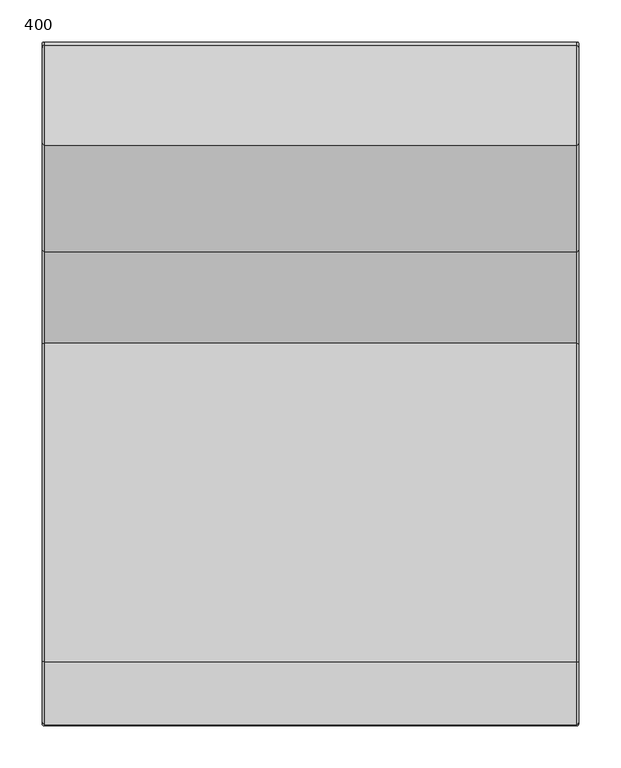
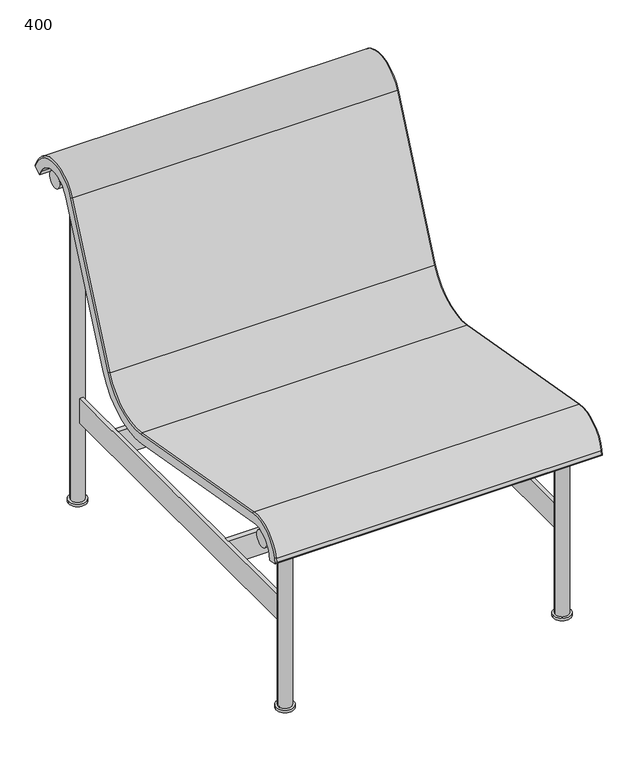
"""IFC4 building model written with IfcOpenShell, lengths in millimetres: furniture geometry, Vestre - Munch - 5166 : 400."""

from ifc_helpers import new_model, si_unit, point, frame, frame_2d, origin, origin_with_axes, place, context, project, spatial, polyline, circle_curve, ellipse_curve, trimmed, segment, composite_curve, outline, extrude, source, transform, mapped, element, save
from ifc_brep_helpers import plane_surface, cylinder_surface, revolved_surface, advanced_brep


def furniture_400_4419f9aa(model_context):
    return source(origin(), model_context, "Body", "SolidModel", [
        advanced_brep(
        [(319.0000801, -388.7630396, 344.2221828), (319.0000801, -386.6445717, 354.1887908), (319.0000801, -334.8137617, 389.1491136), (319.0000801, 43.3199172, 322.4739437), (319.0000801, 173.7831535, 391.8424769), (319.0000801, 300.0909448, 675.5344209), (319.0000801, 382.8976748, 677.7027915), (319.0000801, 387.7145515, 668.2491387), (319.0000801, 402.8355839, 675.9536895), (319.0000801, 398.0187072, 685.4073423), (319.0000801, 284.5874101, 682.4370393), (319.0000801, 158.2796189, 398.7450952), (319.0000801, 46.2668538, 339.1868516), (319.0000801, -331.8668251, 405.8620215), (319.0000801, -403.2444519, 357.7172042), (319.0000801, -405.3629199, 347.7505963), (-318.9999199, 387.7145515, 668.2491387), (-318.9999199, 382.8976748, 677.7027915), (-318.9999199, 300.0909448, 675.5344209), (-318.9999199, 173.7831535, 391.8424769), (-318.9999199, 43.3199172, 322.4739437), (-318.9999199, -334.8137617, 389.1491136), (-318.9999199, -386.6445717, 354.1887908), (-318.9999199, -388.7630396, 344.2221828), (-318.9999199, -405.3629199, 347.7505963), (-318.9999199, -403.2444519, 357.7172042), (-318.9999199, -331.8668251, 405.8620215), (-318.9999199, 46.2668538, 339.1868516), (-318.9999199, 158.2796189, 398.7450952), (-318.9999199, 284.5874101, 682.4370393), (-318.9999199, 398.0187072, 685.4073423), (-318.9999199, 402.8355839, 675.9536895), (315.9708116, 46.7928808, 342.1700987), (-315.9706527, 46.7928808, 342.1700987), (-315.9706513, -331.3407981, 408.8452686), (315.9708116, -331.3407981, 408.8452686), (-315.9706513, -406.2075237, 358.3470246), (315.9708116, -406.2075237, 358.3470246), (-315.9706513, -407.6961713, 351.3434884), (315.9708116, -407.6961713, 351.3434884), (-315.9706531, 400.7178052, 686.7826014), (315.9708116, 400.7178052, 686.7826014), (315.9708116, 404.1594228, 680.0280467), (-315.9706513, 404.1594228, 680.0280467), (-315.9706513, 281.8200356, 683.6691538), (315.9708116, 281.8200356, 683.6691538), (-315.9706513, 155.5122443, 399.9772097), (315.9708116, 155.5122443, 399.9772097)],
        [
            (0, 1),
            (1, 2, circle_curve(frame((319.0000801, -342.6279297, 344.8327647), z_axis=(-1.0, 0.0, 0.0), x_axis=(0.0, -1.0, 0.0)), 45.0)),
            (2, 3),
            (3, 4, circle_curve(frame((319.0000801, 64.1576986, 440.650874), z_axis=(1.0, 0.0, 0.0), x_axis=(0.0, -1.0, 0.0)), 120.0)),
            (4, 5),
            (5, 6, circle_curve(frame((319.0000801, 342.0114396, 656.8702141), z_axis=(-1.0, 0.0, 0.0), x_axis=(0.0, -1.0, 0.0)), 45.8876945)),
            (6, 7),
            (7, 8),
            (8, 9),
            (9, 10, circle_curve(frame((319.0000801, 342.0114396, 656.8702141), z_axis=(1.0, 0.0, 0.0), x_axis=(0.0, 0.8910065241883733, 0.453990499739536)), 62.8584259)),
            (10, 11),
            (11, 12, circle_curve(frame((319.0000801, 64.1576986, 440.650874), z_axis=(-1.0, 0.0, 0.0), x_axis=(0.0, 0.9135454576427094, -0.4067366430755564)), 103.0292686)),
            (12, 13),
            (13, 14, circle_curve(frame((319.0000801, -342.6279297, 344.8327647), z_axis=(1.0, 0.0, 0.0), x_axis=(0.0, 0.17364817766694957, 0.9848077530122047)), 61.9707314)),
            (14, 15),
            (15, 0),
            (16, 17),
            (17, 18, circle_curve(frame((-318.9999199, 342.0114396, 656.8702141), z_axis=(1.0, 0.0, 0.0), x_axis=(0.0, -1.0, 0.0)), 45.8876945)),
            (18, 19),
            (19, 20, circle_curve(frame((-318.9999199, 64.1576986, 440.650874), z_axis=(-1.0, 0.0, 0.0), x_axis=(0.0, -1.0, 0.0)), 120.0)),
            (20, 21),
            (21, 22, circle_curve(frame((-318.9999199, -342.6279297, 344.8327647), z_axis=(1.0, 0.0, 0.0), x_axis=(0.0, -1.0, 0.0)), 45.0)),
            (22, 23),
            (23, 24),
            (24, 25),
            (25, 26, circle_curve(frame((-318.9999199, -342.6279297, 344.8327647), z_axis=(-1.0, 0.0, 0.0), x_axis=(0.0, -0.9781476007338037, 0.2079116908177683)), 61.9707314)),
            (26, 27),
            (27, 28, circle_curve(frame((-318.9999199, 64.1576986, 440.650874), z_axis=(1.0, 0.0, 0.0), x_axis=(0.0, -0.17364817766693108, -0.9848077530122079)), 103.0292686)),
            (28, 29),
            (29, 30, circle_curve(frame((-318.9999199, 342.0114396, 656.8702141), z_axis=(-1.0, 0.0, 0.0), x_axis=(0.0, -0.9135454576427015, 0.40673664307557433)), 62.8584259)),
            (30, 31),
            (31, 16),
            (32, 33),
            (33, 34),
            (34, 35),
            (35, 32),
            (34, 36, circle_curve(frame((-315.9706513, -342.6279297, 344.8327647), z_axis=(1.0, 0.0, 0.0), x_axis=(0.0, -1.0, 0.0)), 65.0)),
            (36, 37),
            (37, 35, circle_curve(frame((315.9708116, -342.6279297, 344.8327647), z_axis=(-1.0, 0.0, 0.0), x_axis=(0.0, -1.0, 0.0)), 65.0)),
            (36, 38),
            (38, 39),
            (39, 37),
            (23, 0),
            (15, 24),
            (22, 1),
            (21, 2),
            (20, 3),
            (19, 4),
            (18, 5),
            (17, 6),
            (16, 7),
            (31, 8),
            (40, 41),
            (41, 42),
            (42, 43),
            (43, 40),
            (40, 44, circle_curve(frame((-315.9706513, 342.0114396, 656.8702141), z_axis=(1.0, 0.0, 0.0), x_axis=(0.0, -1.0, 0.0)), 65.8876945)),
            (44, 45),
            (45, 41, circle_curve(frame((315.9708116, 342.0114396, 656.8702141), z_axis=(-1.0, 0.0, 0.0), x_axis=(0.0, -1.0, 0.0)), 65.8876945)),
            (44, 46),
            (46, 47),
            (47, 45),
            (32, 47, circle_curve(frame((315.9708116, 64.1576986, 440.650874), z_axis=(1.0, 0.0, 0.0), x_axis=(0.0, -1.0, 0.0)), 100.0)),
            (46, 33, circle_curve(frame((-315.9706513, 64.1576986, 440.650874), z_axis=(-1.0, 0.0, 0.0), x_axis=(0.0, -1.0, 0.0)), 100.0)),
            (46, 28, circle_curve(frame((-315.9706513, 158.2796189, 398.7450952), z_axis=(0.0, -0.4067366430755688, -0.9135454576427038), x_axis=(1.0, 0.0, 0.0)), 3.0292686)),
            (27, 33, circle_curve(frame((-315.9706513, 46.2668538, 339.1868516), z_axis=(0.0, 0.9848077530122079, -0.17364817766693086), x_axis=(1.0, 0.0, 0.0)), 3.0292686)),
            (44, 29, circle_curve(frame((-315.9706513, 284.5874101, 682.4370393), z_axis=(0.0, -0.40673664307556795, -0.9135454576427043), x_axis=(1.0, 0.0, 0.0)), 3.0292686)),
            (40, 30, circle_curve(frame((-315.9706513, 398.0187072, 685.4073423), z_axis=(0.0, -0.4539904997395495, 0.8910065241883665), x_axis=(1.0, 0.0, 0.0)), 3.0292686)),
            (43, 31, ellipse_curve(frame((-315.9706513, 401.4603247, 678.6527875), z_axis=(-0.7071067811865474, -0.3210197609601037, 0.6300367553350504), x_axis=(-0.7071067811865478, 0.32101976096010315, -0.6300367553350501)), 4.2840327, 3.0292686)),
            (42, 8, ellipse_curve(frame((315.9708116, 401.4603247, 678.6527875), z_axis=(-0.7071067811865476, 0.32101976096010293, -0.6300367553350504), x_axis=(0.7071067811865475, 0.32101976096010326, -0.6300367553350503)), 4.2840327, 3.0292686)),
            (41, 9, circle_curve(frame((315.9708116, 398.0187072, 685.4073423), z_axis=(0.0, 0.4539904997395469, -0.8910065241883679), x_axis=(-1.0, 0.0, 0.0)), 3.0292686)),
            (45, 10, circle_curve(frame((315.9708116, 284.5874101, 682.4370393), z_axis=(0.0, 0.40673664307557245, 0.9135454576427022), x_axis=(-1.0, 0.0, 0.0)), 3.0292686)),
            (47, 11, circle_curve(frame((315.9708116, 158.2796189, 398.7450952), z_axis=(0.0, 0.4067366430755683, 0.9135454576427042), x_axis=(-1.0, 0.0, 0.0)), 3.0292686)),
            (32, 12, circle_curve(frame((315.9708116, 46.2668538, 339.1868516), z_axis=(0.0, 0.9848077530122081, -0.17364817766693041), x_axis=(-1.0, 0.0, 0.0)), 3.0292686)),
            (35, 13, circle_curve(frame((315.9708116, -331.8668251, 405.8620215), z_axis=(0.0, 0.9848077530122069, -0.17364817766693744), x_axis=(-1.0, 0.0, 0.0)), 3.0292686)),
            (37, 14, circle_curve(frame((315.9708116, -403.2444519, 357.7172042), z_axis=(0.0, 0.2079116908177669, 0.9781476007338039), x_axis=(-1.0, 0.0, 0.0)), 3.0292686)),
            (39, 15, ellipse_curve(frame((315.9708116, -404.7330995, 350.713668), z_axis=(0.7071067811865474, 0.14701576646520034, 0.6916548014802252), x_axis=(0.7071067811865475, -0.14701576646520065, -0.6916548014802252)), 4.2840327, 3.0292686)),
            (38, 24, ellipse_curve(frame((-315.9706513, -404.7330995, 350.713668), z_axis=(0.7071067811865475, -0.14701576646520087, -0.691654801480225), x_axis=(-0.7071067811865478, -0.14701576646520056, -0.691654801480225)), 4.2840327, 3.0292686)),
            (36, 25, circle_curve(frame((-315.9706513, -403.2444519, 357.7172042), z_axis=(0.0, -0.20791169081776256, -0.978147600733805), x_axis=(1.0, 0.0, 0.0)), 3.0292686)),
            (34, 26, circle_curve(frame((-315.9706513, -331.8668251, 405.8620215), z_axis=(0.0, -0.9848077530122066, 0.1736481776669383), x_axis=(1.0, 0.0, 0.0)), 3.0292686)),
        ],
        [
            plane_surface(frame((319.0000801, -330.1637759, 408.6377279), z_axis=(1.0, 0.0, 0.0), x_axis=(0.0, -0.9848077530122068, 0.17364817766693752))),
            plane_surface(frame((-318.9999199, -330.1637759, 408.6377279), z_axis=(-1.0, 0.0, 0.0), x_axis=(0.0, 0.9848077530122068, -0.17364817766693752))),
            plane_surface(frame((319.0000801, 46.7928808, 342.1700987), z_axis=(0.0, 0.17364817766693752, 0.9848077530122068), x_axis=(-1.0, 0.0, 0.0))),
            cylinder_surface(frame((-318.9999199, -342.6279297, 344.8327647), z_axis=(1.0, 0.0, 0.0), x_axis=(0.0, -1.0, 0.0)), 65.0),
            plane_surface(frame((319.0000801, -406.2075237, 358.3470246), z_axis=(0.0, -0.978147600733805, 0.20791169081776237), x_axis=(-1.0, 0.0, 0.0))),
            plane_surface(frame((319.0000801, -408.3259916, 348.3804166), z_axis=(0.0, -0.20791169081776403, -0.9781476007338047), x_axis=(-1.0, 0.0, 0.0))),
            plane_surface(frame((319.0000801, -388.7630396, 344.2221828), z_axis=(0.0, 0.9781476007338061, -0.20791169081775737), x_axis=(-1.0, 0.0, 0.0))),
            revolved_surface(polyline([(-318.9999199, -387.6279297, 344.8327647), (319.0000801, -387.6279297, 344.8327647)]), (-318.9999199, -342.6279297, 344.8327647), (-1.0, 0.0, 0.0)),
            plane_surface(frame((319.0000801, -334.8137617, 389.1491136), z_axis=(0.0, -0.17364817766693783, -0.9848077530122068), x_axis=(-1.0, 0.0, 0.0))),
            cylinder_surface(frame((-318.9999199, 64.1576986, 440.650874), z_axis=(1.0, 0.0, 0.0), x_axis=(0.0, -1.0, 0.0)), 120.0),
            plane_surface(frame((319.0000801, 173.7831535, 391.8424769), z_axis=(0.0, 0.9135454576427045, -0.40673664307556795), x_axis=(-1.0, 0.0, 0.0))),
            revolved_surface(polyline([(-318.9999199, 296.1237451, 656.8702141), (319.0000801, 296.1237451, 656.8702141)]), (-318.9999199, 342.0114396, 656.8702141), (-1.0, 0.0, 0.0)),
            plane_surface(frame((319.0000801, 382.8976748, 677.7027915), z_axis=(0.0, -0.8910065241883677, -0.45399049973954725), x_axis=(-1.0, 0.0, 0.0))),
            plane_surface(frame((319.0000801, 387.7145515, 668.2491387), z_axis=(0.0, 0.45399049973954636, -0.8910065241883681), x_axis=(-1.0, 0.0, 0.0))),
            plane_surface(frame((319.0000801, 405.5346819, 677.3289486), z_axis=(0.0, 0.8910065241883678, 0.4539904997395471), x_axis=(-1.0, 0.0, 0.0))),
            cylinder_surface(frame((-318.9999199, 342.0114396, 656.8702141), z_axis=(1.0, 0.0, 0.0), x_axis=(0.0, -1.0, 0.0)), 65.8876945),
            plane_surface(frame((319.0000801, 281.8200356, 683.6691538), z_axis=(0.0, -0.9135454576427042, 0.4067366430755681), x_axis=(-1.0, 0.0, 0.0))),
            revolved_surface(polyline([(-315.9706527, -35.8423014, 440.650874), (315.97081160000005, -35.8423014, 440.650874)]), (-318.9999199, 64.1576986, 440.650874), (-1.0, 0.0, 0.0)),
            revolved_surface(trimmed(ellipse_curve(frame((-315.9706513, 46.2668538, 339.1868516), z_axis=(0.0, -0.9848077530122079, 0.17364817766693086), x_axis=(1.0, 0.0, 0.0)), 3.0292686, 3.0292686), [point((-315.9706513, 46.7928808, 342.1700987))], [point((-318.9999199, 46.2668538, 339.1868516))], True, "CARTESIAN"), (-318.9999199, 64.1576986, 440.650874), (1.0, 0.0, 0.0)),
            cylinder_surface(frame((-315.9706513, 158.2796189, 398.7450952), z_axis=(0.0, 0.40673664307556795, 0.9135454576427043), x_axis=(1.0, 0.0, 0.0)), 3.0292686),
            revolved_surface(trimmed(ellipse_curve(frame((-315.9706513, 284.5874101, 682.4370393), z_axis=(0.0, -0.40673664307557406, -0.9135454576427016), x_axis=(1.0, 0.0, 0.0)), 3.0292686, 3.0292686), [point((-315.9706513, 281.8200356, 683.6691538))], [point((-318.9999199, 284.5874101, 682.4370393))], True, "CARTESIAN"), (-318.9999199, 342.0114396, 656.8702141), (-1.0, 0.0, 0.0)),
            cylinder_surface(frame((-315.9706513, 398.0187072, 685.4073423), z_axis=(0.0, 0.45399049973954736, -0.8910065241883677), x_axis=(1.0, 0.0, 0.0)), 3.0292686),
            cylinder_surface(frame((-318.9999199, 401.4603247, 678.6527875), z_axis=(1.0, 0.0, 0.0), x_axis=(0.0, -0.4539904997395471, 0.8910065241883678)), 3.0292686),
            cylinder_surface(frame((315.9708116, 402.8355839, 675.9536895), z_axis=(0.0, -0.4539904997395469, 0.8910065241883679), x_axis=(-1.0, 0.0, 0.0)), 3.0292686),
            revolved_surface(trimmed(ellipse_curve(frame((315.9708116, 398.0187072, 685.4073423), z_axis=(0.0, 0.45399049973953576, -0.8910065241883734), x_axis=(-1.0, 0.0, 0.0)), 3.0292686, 3.0292686), [point((315.9708116, 400.7178052, 686.7826014))], [point((319.0000801, 398.0187072, 685.4073423))], True, "CARTESIAN"), (319.0000801, 342.0114396, 656.8702141), (1.0, 0.0, 0.0)),
            cylinder_surface(frame((315.9708116, 284.5874101, 682.4370393), z_axis=(0.0, -0.4067366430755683, -0.9135454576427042), x_axis=(-1.0, 0.0, 0.0)), 3.0292686),
            revolved_surface(trimmed(ellipse_curve(frame((315.9708116, 158.2796189, 398.7450952), z_axis=(0.0, 0.4067366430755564, 0.9135454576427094), x_axis=(-1.0, 0.0, 0.0)), 3.0292686, 3.0292686), [point((315.9708116, 155.5122443, 399.9772097))], [point((319.0000801, 158.2796189, 398.7450952))], True, "CARTESIAN"), (319.0000801, 64.1576986, 440.650874), (-1.0, 0.0, 0.0)),
            cylinder_surface(frame((315.9708116, 46.2668538, 339.1868516), z_axis=(0.0, -0.9848077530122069, 0.17364817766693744), x_axis=(-1.0, 0.0, 0.0)), 3.0292686),
            revolved_surface(trimmed(ellipse_curve(frame((315.9708116, -331.8668251, 405.8620215), z_axis=(0.0, 0.9848077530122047, -0.17364817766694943), x_axis=(-1.0, 0.0, 0.0)), 3.0292686, 3.0292686), [point((315.9708116, -331.3407981, 408.8452686))], [point((319.0000801, -331.8668251, 405.8620215))], True, "CARTESIAN"), (319.0000801, -342.6279297, 344.8327647), (1.0, 0.0, 0.0)),
            cylinder_surface(frame((315.9708116, -403.2444519, 357.7172042), z_axis=(0.0, -0.20791169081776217, -0.978147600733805), x_axis=(-1.0, 0.0, 0.0)), 3.0292686),
            cylinder_surface(frame((319.0000801, -404.7330995, 350.713668), z_axis=(-1.0, 0.0, 0.0), x_axis=(0.0, 0.2079116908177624, 0.978147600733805)), 3.0292686),
            cylinder_surface(frame((-315.9706513, -405.3629199, 347.7505963), z_axis=(0.0, 0.20791169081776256, 0.978147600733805), x_axis=(1.0, 0.0, 0.0)), 3.0292686),
            revolved_surface(trimmed(ellipse_curve(frame((-315.9706513, -403.2444519, 357.7172042), z_axis=(0.0, -0.20791169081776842, -0.9781476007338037), x_axis=(1.0, 0.0, 0.0)), 3.0292686, 3.0292686), [point((-315.9706513, -406.2075237, 358.3470246))], [point((-318.9999199, -403.2444519, 357.7172042))], True, "CARTESIAN"), (-318.9999199, -342.6279297, 344.8327647), (-1.0, 0.0, 0.0)),
            cylinder_surface(frame((-315.9706513, -331.8668251, 405.8620215), z_axis=(0.0, 0.9848077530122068, -0.17364817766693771), x_axis=(1.0, 0.0, 0.0)), 3.0292686),
        ],
        [
            (0, [[1, 2, 3, 4, 5, 6, 7, 8, 9, 10, 11, 12, 13, 14, 15, 16]]),
            (1, [[17, 18, 19, 20, 21, 22, 23, 24, 25, 26, 27, 28, 29, 30, 31, 32]]),
            (2, [[33, 34, 35, 36]]),
            (3, [[-35, 37, 38, 39]]),
            (4, [[-38, 40, 41, 42]]),
            (5, [[43, -16, 44, -24]]),
            (6, [[-1, -43, -23, 45]]),
            (7, [[-2, -45, -22, 46]]),
            (8, [[-3, -46, -21, 47]]),
            (9, [[-4, -47, -20, 48]]),
            (10, [[-5, -48, -19, 49]]),
            (11, [[-6, -49, -18, 50]]),
            (12, [[-7, -50, -17, 51]]),
            (13, [[-51, -32, 52, -8]]),
            (14, [[53, 54, 55, 56]]),
            (15, [[-53, 57, 58, 59]]),
            (16, [[-58, 60, 61, 62]]),
            (17, [[-33, 63, -61, 64]]),
            (18, [[65, -28, 66, -64]]),
            (19, [[-65, -60, 67, -29]]),
            (20, [[-67, -57, 68, -30]]),
            (21, [[-68, -56, 69, -31]]),
            (22, [[-69, -55, 70, -52]]),
            (23, [[-70, -54, 71, -9]]),
            (24, [[-71, -59, 72, -10]]),
            (25, [[-72, -62, 73, -11]]),
            (26, [[-73, -63, 74, -12]]),
            (27, [[-74, -36, 75, -13]]),
            (28, [[-75, -39, 76, -14]]),
            (29, [[-76, -42, 77, -15]]),
            (30, [[-77, -41, 78, -44]]),
            (31, [[-78, -40, 79, -25]]),
            (32, [[-79, -37, 80, -26]]),
            (33, [[-66, -27, -80, -34]]),
        ],
    ),
        extrude(outline(composite_curve([segment(trimmed(circle_curve(frame_2d((270.025, 345.3323767)), 10.0), [point((280.025, 345.3323767))], [point((260.025, 345.3323767))], False, "CARTESIAN"), True, "CONTINUOUS"), segment(trimmed(circle_curve(frame_2d((270.025, 345.3323767)), 10.0), [point((260.025, 345.3323767))], [point((280.025, 345.3323767))], False, "CARTESIAN"), True, "CONTINUOUS")], self_intersect=False)), origin_with_axes(), (0.0, 0.0, 1.0), 5.0095249),
        extrude(outline(composite_curve([segment(trimmed(circle_curve(frame_2d((270.025, 345.3323767)), 17.5), [point((287.525, 345.3323767))], [point((252.525, 345.3323767))], False, "CARTESIAN"), True, "CONTINUOUS"), segment(trimmed(circle_curve(frame_2d((270.025, 345.3323767)), 17.5), [point((252.525, 345.3323767))], [point((287.525, 345.3323767))], False, "CARTESIAN"), True, "CONTINUOUS")], self_intersect=False)), frame((0.0, 0.0, 5.0095249), z_axis=(0.0, 0.0, 1.0), x_axis=(1.0, 0.0, 0.0)), (0.0, 0.0, 1.0), 4.9904751),
        extrude(outline(composite_curve([segment(trimmed(circle_curve(frame_2d((270.025, 345.3323767)), 13.0), [point((283.025, 345.3323767))], [point((257.025, 345.3323767))], False, "CARTESIAN"), True, "CONTINUOUS"), segment(trimmed(circle_curve(frame_2d((270.025, 345.3323767)), 13.0), [point((257.025, 345.3323767))], [point((283.025, 345.3323767))], False, "CARTESIAN"), True, "CONTINUOUS")], self_intersect=False)), frame((0.0, 0.0, 10.0), z_axis=(0.0, 0.0, 1.0), x_axis=(1.0, 0.0, 0.0)), (0.0, 0.0, 1.0), 672.2046016),
        extrude(outline(composite_curve([segment(trimmed(circle_curve(frame_2d((270.025, -354.6676233)), 10.0), [point((280.025, -354.6676233))], [point((260.025, -354.6676233))], False, "CARTESIAN"), True, "CONTINUOUS"), segment(trimmed(circle_curve(frame_2d((270.025, -354.6676233)), 10.0), [point((260.025, -354.6676233))], [point((280.025, -354.6676233))], False, "CARTESIAN"), True, "CONTINUOUS")], self_intersect=False)), origin_with_axes(), (0.0, 0.0, 1.0), 5.0095249),
        extrude(outline(composite_curve([segment(trimmed(circle_curve(frame_2d((270.025, -354.6676233)), 17.5), [point((287.525, -354.6676233))], [point((252.525, -354.6676233))], False, "CARTESIAN"), True, "CONTINUOUS"), segment(trimmed(circle_curve(frame_2d((270.025, -354.6676233)), 17.5), [point((252.525, -354.6676233))], [point((287.525, -354.6676233))], False, "CARTESIAN"), True, "CONTINUOUS")], self_intersect=False)), frame((0.0, 0.0, 5.0095249), z_axis=(0.0, 0.0, 1.0), x_axis=(1.0, 0.0, 0.0)), (0.0, 0.0, 1.0), 4.9904751),
        extrude(outline(composite_curve([segment(trimmed(circle_curve(frame_2d((270.025, -354.6676233)), 13.0), [point((283.025, -354.6676233))], [point((257.025, -354.6676233))], False, "CARTESIAN"), True, "CONTINUOUS"), segment(trimmed(circle_curve(frame_2d((270.025, -354.6676233)), 13.0), [point((257.025, -354.6676233))], [point((283.025, -354.6676233))], False, "CARTESIAN"), True, "CONTINUOUS")], self_intersect=False)), frame((0.0, 0.0, 10.0), z_axis=(0.0, 0.0, 1.0), x_axis=(1.0, 0.0, 0.0)), (0.0, 0.0, 1.0), 357.3979993),
        extrude(outline(composite_curve([segment(trimmed(circle_curve(frame_2d((-270.025, 345.3323767)), 10.0), [point((-280.025, 345.3323767))], [point((-260.025, 345.3323767))], False, "CARTESIAN"), True, "CONTINUOUS"), segment(trimmed(circle_curve(frame_2d((-270.025, 345.3323767)), 10.0), [point((-260.025, 345.3323767))], [point((-280.025, 345.3323767))], False, "CARTESIAN"), True, "CONTINUOUS")], self_intersect=False)), origin_with_axes(), (0.0, 0.0, 1.0), 5.0095249),
        extrude(outline(composite_curve([segment(trimmed(circle_curve(frame_2d((-270.025, 345.3323767)), 17.5), [point((-287.525, 345.3323767))], [point((-252.525, 345.3323767))], False, "CARTESIAN"), True, "CONTINUOUS"), segment(trimmed(circle_curve(frame_2d((-270.025, 345.3323767)), 17.5), [point((-252.525, 345.3323767))], [point((-287.525, 345.3323767))], False, "CARTESIAN"), True, "CONTINUOUS")], self_intersect=False)), frame((0.0, 0.0, 5.0095249), z_axis=(0.0, 0.0, 1.0), x_axis=(1.0, 0.0, 0.0)), (0.0, 0.0, 1.0), 4.9904751),
        extrude(outline(composite_curve([segment(trimmed(circle_curve(frame_2d((-270.025, 345.3323767)), 13.0), [point((-283.025, 345.3323767))], [point((-257.025, 345.3323767))], False, "CARTESIAN"), True, "CONTINUOUS"), segment(trimmed(circle_curve(frame_2d((-270.025, 345.3323767)), 13.0), [point((-257.025, 345.3323767))], [point((-283.025, 345.3323767))], False, "CARTESIAN"), True, "CONTINUOUS")], self_intersect=False)), frame((0.0, 0.0, 10.0), z_axis=(0.0, 0.0, 1.0), x_axis=(1.0, 0.0, 0.0)), (0.0, 0.0, 1.0), 672.2046016),
        extrude(outline(composite_curve([segment(trimmed(circle_curve(frame_2d((-270.025, -354.6676233)), 10.0), [point((-280.025, -354.6676233))], [point((-260.025, -354.6676233))], False, "CARTESIAN"), True, "CONTINUOUS"), segment(trimmed(circle_curve(frame_2d((-270.025, -354.6676233)), 10.0), [point((-260.025, -354.6676233))], [point((-280.025, -354.6676233))], False, "CARTESIAN"), True, "CONTINUOUS")], self_intersect=False)), origin_with_axes(), (0.0, 0.0, 1.0), 5.0095249),
        extrude(outline(composite_curve([segment(trimmed(circle_curve(frame_2d((-270.025, -354.6676233)), 17.5), [point((-287.525, -354.6676233))], [point((-252.525, -354.6676233))], False, "CARTESIAN"), True, "CONTINUOUS"), segment(trimmed(circle_curve(frame_2d((-270.025, -354.6676233)), 17.5), [point((-252.525, -354.6676233))], [point((-287.525, -354.6676233))], False, "CARTESIAN"), True, "CONTINUOUS")], self_intersect=False)), frame((0.0, 0.0, 5.0095249), z_axis=(0.0, 0.0, 1.0), x_axis=(1.0, 0.0, 0.0)), (0.0, 0.0, 1.0), 4.9904751),
        extrude(outline(composite_curve([segment(trimmed(circle_curve(frame_2d((-270.025, -354.6676233)), 13.0), [point((-283.025, -354.6676233))], [point((-257.025, -354.6676233))], False, "CARTESIAN"), True, "CONTINUOUS"), segment(trimmed(circle_curve(frame_2d((-270.025, -354.6676233)), 13.0), [point((-257.025, -354.6676233))], [point((-283.025, -354.6676233))], False, "CARTESIAN"), True, "CONTINUOUS")], self_intersect=False)), frame((0.0, 0.0, 10.0), z_axis=(0.0, 0.0, 1.0), x_axis=(1.0, 0.0, 0.0)), (0.0, 0.0, 1.0), 357.3979993),
        extrude(outline(composite_curve([segment(trimmed(circle_curve(frame_2d((-354.6676233, 367.15)), 16.85), [point((-337.8176233, 367.15))], [point((-371.5176233, 367.15))], False, "CARTESIAN"), True, "CONTINUOUS"), segment(trimmed(circle_curve(frame_2d((-354.6676233, 367.15)), 16.85), [point((-371.5176233, 367.15))], [point((-337.8176233, 367.15))], False, "CARTESIAN"), True, "CONTINUOUS")], self_intersect=False)), frame((-314.9750977, 0.0, 0.0), z_axis=(1.0, 0.0, 0.0), x_axis=(0.0, 1.0, 0.0)), (0.0, 0.0, 1.0), 629.4750977),
        extrude(outline(composite_curve([segment(trimmed(circle_curve(frame_2d((345.3323767, 682.15)), 16.85), [point((362.1823767, 682.15))], [point((328.4823767, 682.15))], False, "CARTESIAN"), True, "CONTINUOUS"), segment(trimmed(circle_curve(frame_2d((345.3323767, 682.15)), 16.85), [point((328.4823767, 682.15))], [point((362.1823767, 682.15))], False, "CARTESIAN"), True, "CONTINUOUS")], self_intersect=False)), frame((-314.5, 0.0, 0.0), z_axis=(1.0, 0.0, 0.0), x_axis=(0.0, 1.0, 0.0)), (0.0, 0.0, 1.0), 629.0),
        extrude(outline(polyline([(266.0500977, -343.4225488), (266.0500977, 334.0873022), (273.9000977, 334.0873022), (273.9000977, -343.4225488), (266.0500977, -343.4225488)])), frame((0.0, 0.0, 175.0), z_axis=(0.0, 0.0, 1.0), x_axis=(1.0, 0.0, 0.0)), (0.0, 0.0, 1.0), 50.0),
        extrude(outline(polyline([(266.0500977, -146.5626978), (266.0500977, -156.9225488), (-266.0500977, -156.9225488), (-266.0500977, -146.5626978), (266.0500977, -146.5626978)])), frame((0.0, 0.0, 175.0), z_axis=(0.0, 0.0, 1.0), x_axis=(1.0, 0.0, 0.0)), (0.0, 0.0, 1.0), 50.0),
        extrude(outline(polyline([(266.0500977, 224.5123022), (266.0500977, 214.1524512), (-266.0500977, 214.1524512), (-266.0500977, 224.5123022), (266.0500977, 224.5123022)])), frame((0.0, 0.0, 175.0), z_axis=(0.0, 0.0, 1.0), x_axis=(1.0, 0.0, 0.0)), (0.0, 0.0, 1.0), 50.0),
        extrude(outline(polyline([(-266.0500977, 334.0873022), (-266.0500977, -343.4225488), (-273.9000977, -343.4225488), (-273.9000977, 334.0873022), (-266.0500977, 334.0873022)])), frame((0.0, 0.0, 175.0), z_axis=(0.0, 0.0, 1.0), x_axis=(1.0, 0.0, 0.0)), (0.0, 0.0, 1.0), 50.0),
    ])


if __name__ == "__main__":
    model = new_model("IFC4")
    model_context = context("Model", 3, world=origin())
    ifc_project = project(units=[si_unit("LENGTHUNIT", "METRE", prefix="MILLI")], contexts=[model_context])
    site = spatial("IfcSite", under=ifc_project)
    building = spatial("IfcBuilding", under=site)
    placement = place(None, origin())
    furniture_400_shape = furniture_400_4419f9aa(model_context)
    element("IfcFurniture", 1, ObjectType="Vestre - Munch - 5166 : 400", at=placement, inside=building, context=model_context, shape_type="MappedRepresentation", body=[
        mapped(furniture_400_shape, transform((0.0, 0.0, 0.0), x_axis=(1.0, 0.0, 0.0), y_axis=(0.0, 1.0, 0.0), z_axis=(0.0, 0.0, 1.0))),
    ])
    save(model, "model.ifc")
